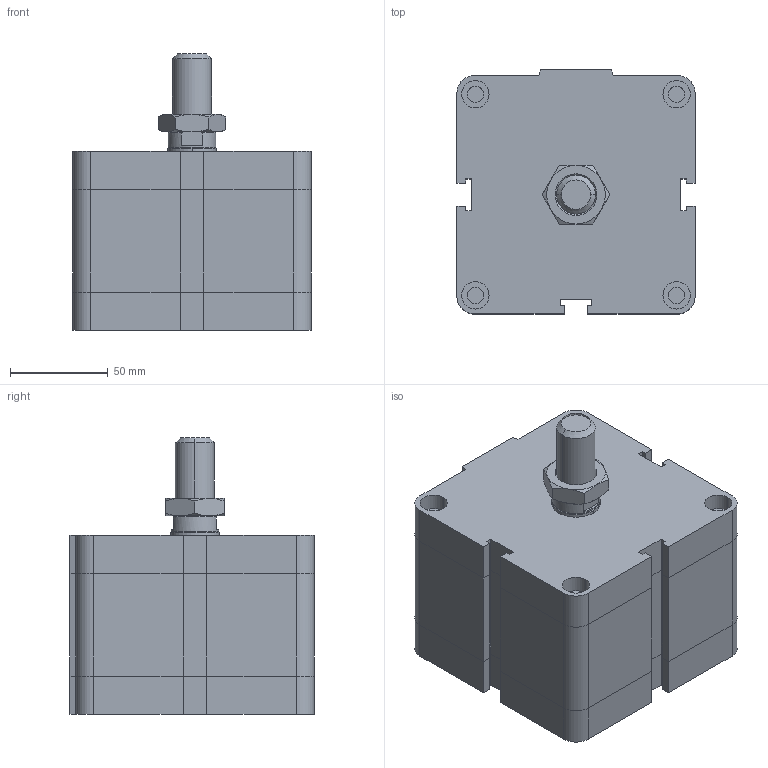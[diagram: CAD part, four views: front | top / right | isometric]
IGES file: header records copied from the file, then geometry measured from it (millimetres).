
Global section: file name: No Iges File Name specified; native system: Autodesk Inventor 2009; preprocessor: AutoDesk Inventor Iges Exporter R2009; author: rivolro1; date: 20081219.162832; units: millimetre
Bounding box: 122 x 125 x 141.5 mm (x, y, z)
Volume: 1339704.7 mm3; surface area: 99829.3 mm2
Topology: 3 solids, 3 shells, 216 faces, 472 edges, 282 vertices
Faces by surface type: plane 121, bspline 37, cylinder 20, cone 20, revolution 18
